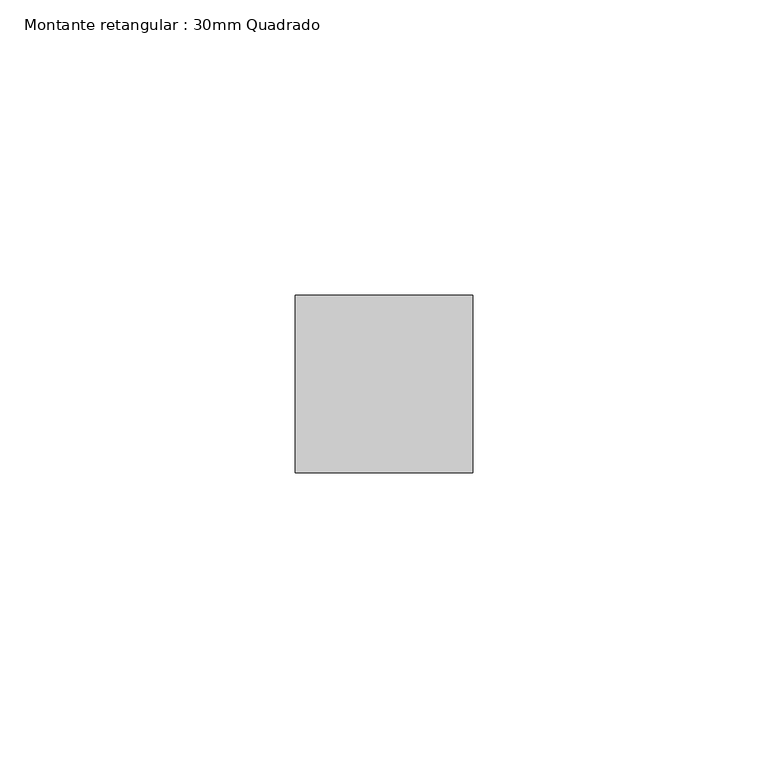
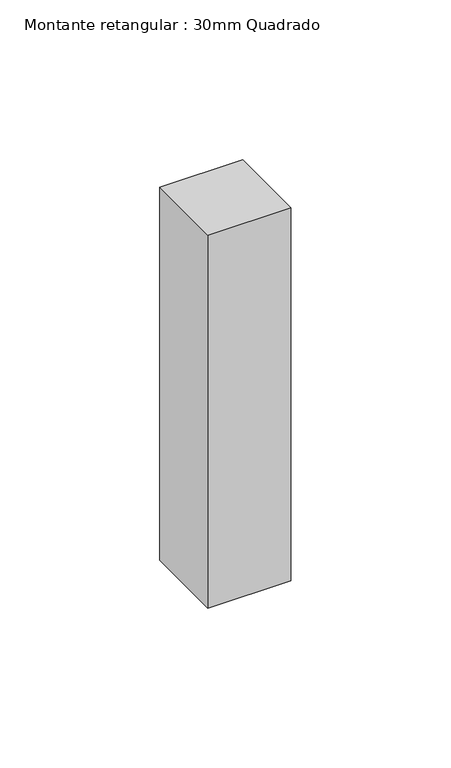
"""IFC4 building model written with IfcOpenShell, lengths in millimetres: member geometry, Montante retangular : 30mm Quadrado."""

import ifcopenshell
import ifcopenshell.guid

model = None  # the IFC model being written
_history = None  # IfcOwnerHistory: only IFC2X3 demands one
_inside = {}  # id of a spatial element -> (the spatial element, [elements in it])
_under = {}  # id of a project, library or spatial element -> (it, [spatial elements below it])
_declared = {}  # id of a project -> (the project, [libraries it declares])
_typed = {}  # id of a type object -> (the type object, [elements of that type])
_made_of = {}  # id of a material, layer set ... -> (it, [elements and type objects made of it])


def new_model(schema):
    """Start an empty IFC model of exactly this schema.

    Asked for "IFC4X3", IfcOpenShell would pick the latest addendum, in which some entities
    have other attributes; the version numbers below select the first issue.
    IFC2X3 requires an IfcOwnerHistory on every rooted entity: one is made here for all.
    """
    global model, _history
    if schema == "IFC4X3":
        model = ifcopenshell.file(schema_version=(4, 3, 0, 0))
    else:
        model = ifcopenshell.file(schema=schema)
    _inside.clear()
    _under.clear()
    _declared.clear()
    _typed.clear()
    _made_of.clear()
    _history = None
    if model.schema == "IFC2X3":
        org = make("IfcOrganization", Name="unknown")
        user = make(
            "IfcPersonAndOrganization",
            ThePerson=make("IfcPerson", FamilyName="unknown"),
            TheOrganization=org,
        )
        app = make(
            "IfcApplication",
            ApplicationDeveloper=org,
            Version="unknown",
            ApplicationFullName="unknown",
            ApplicationIdentifier="unknown",
        )
        _history = make(
            "IfcOwnerHistory",
            OwningUser=user,
            OwningApplication=app,
            ChangeAction="ADDED",
            CreationDate=0,
        )
    return model


def make(cls, **values):
    """One entity of the class cls with the attributes given. An attribute that is None is left unset."""
    return model.create_entity(
        cls, **{name: value for name, value in values.items() if value is not None}
    )


def rooted(cls, **values):
    """An entity with a GlobalId (a new one), such as an element, a storey or a relation."""
    return make(cls, GlobalId=ifcopenshell.guid.new(), OwnerHistory=_history, **values)


def si_unit(unit_type, name, prefix=None):
    """IfcSIUnit, for example si_unit("LENGTHUNIT", "METRE", prefix="MILLI")."""
    return make("IfcSIUnit", UnitType=unit_type, Prefix=prefix, Name=name)


def assignment(units):
    """IfcUnitAssignment: the units of a project."""
    return None if units is None else make("IfcUnitAssignment", Units=units)


def point(xyz):
    """IfcCartesianPoint."""
    return None if xyz is None else make("IfcCartesianPoint", Coordinates=xyz)


def direction(xyz):
    """IfcDirection."""
    return None if xyz is None else make("IfcDirection", DirectionRatios=xyz)


def frame(location, z_axis=None, x_axis=None):
    """IfcAxis2Placement3D, a coordinate frame: its origin and axes. An axis left out is left unset."""
    return make(
        "IfcAxis2Placement3D",
        Location=point(location),
        Axis=direction(z_axis),
        RefDirection=direction(x_axis),
    )


def origin():
    """The frame at (0, 0, 0) with its axes left unset."""
    return frame((0.0, 0.0, 0.0))


def place(relative_to, where):
    """IfcLocalPlacement: puts the frame where relative to a parent placement (None: the world)."""
    return make(
        "IfcLocalPlacement", PlacementRelTo=relative_to, RelativePlacement=where
    )


def context(
    kind, dimensions, precision=None, world=None, true_north=None, identifier=None
):
    """IfcGeometricRepresentationContext, for example the 3D "Model" context."""
    return make(
        "IfcGeometricRepresentationContext",
        ContextIdentifier=identifier,
        ContextType=kind,
        CoordinateSpaceDimension=dimensions,
        Precision=precision,
        WorldCoordinateSystem=world,
        TrueNorth=true_north,
    )


def project(units=None, contexts=None):
    """IfcProject with its units and contexts."""
    return rooted(
        "IfcProject",
        Name="project",
        RepresentationContexts=contexts,
        UnitsInContext=assignment(units),
    )


def spatial(cls, under=None, at=None, **own):
    """A site, building, storey or space (cls), placed at a placement, below another one or the project."""
    s = rooted(cls, ObjectPlacement=at, **own)
    if under is not None:
        _under.setdefault(under.id(), (under, []))[1].append(s)
    return s


def polyline(points):
    """IfcPolyline through the points."""
    return make("IfcPolyline", Points=[point(p) for p in points])


def outline(outer, holes=None, kind="AREA"):
    """IfcArbitraryClosedProfileDef: a profile drawn as a closed curve; with holes, ...WithVoids."""
    if holes is None:
        return make("IfcArbitraryClosedProfileDef", ProfileType=kind, OuterCurve=outer)
    return make(
        "IfcArbitraryProfileDefWithVoids",
        ProfileType=kind,
        OuterCurve=outer,
        InnerCurves=holes,
    )


def extrude(swept, where, along, depth):
    """IfcExtrudedAreaSolid: the profile swept, set in the frame where, extruded along a direction by depth."""
    return make(
        "IfcExtrudedAreaSolid",
        SweptArea=swept,
        Position=where,
        ExtrudedDirection=direction(along),
        Depth=depth,
    )


def shape(context_of_items, identifier, shape_type, items):
    """IfcShapeRepresentation: the items that make up one representation, for example the "Body"."""
    return make(
        "IfcShapeRepresentation",
        ContextOfItems=context_of_items,
        RepresentationIdentifier=identifier,
        RepresentationType=shape_type,
        Items=items,
    )


def source(mapping_origin, context_of_items, identifier, shape_type, items):
    """IfcRepresentationMap: a shape defined once, which mapped items show again and again."""
    return make(
        "IfcRepresentationMap",
        MappingOrigin=mapping_origin,
        MappedRepresentation=shape(context_of_items, identifier, shape_type, items),
    )


def transform(
    local_origin,
    x_axis=None,
    y_axis=None,
    z_axis=None,
    scale=None,
    scale2=None,
    scale3=None,
    uniform=True,
):
    """IfcCartesianTransformationOperator3D, or its non-uniform kind. x_axis, y_axis, z_axis: its Axis1, 2, 3."""
    if uniform:
        return make(
            "IfcCartesianTransformationOperator3D",
            Axis1=direction(x_axis),
            Axis2=direction(y_axis),
            LocalOrigin=point(local_origin),
            Scale=scale,
            Axis3=direction(z_axis),
        )
    return make(
        "IfcCartesianTransformationOperator3DnonUniform",
        Axis1=direction(x_axis),
        Axis2=direction(y_axis),
        LocalOrigin=point(local_origin),
        Scale=scale,
        Axis3=direction(z_axis),
        Scale2=scale2,
        Scale3=scale3,
    )


def mapped(mapping_source, mapping_target):
    """IfcMappedItem: shows the shape of a source again, moved by a transform."""
    return make(
        "IfcMappedItem", MappingSource=mapping_source, MappingTarget=mapping_target
    )


def made_of(thing, what):
    """Note that an element or type object is made of a material, layer set ...; save() writes the relation."""
    if what is not None:
        _made_of.setdefault(what.id(), (what, []))[1].append(thing)
    return thing


def element(
    cls,
    number,
    at=None,
    inside=None,
    cuts=None,
    type_object=None,
    material=None,
    context=None,
    identifier="Body",
    shape_type=None,
    held_by="IfcProductDefinitionShape",
    body=None,
    shapes=None,
    **own,
):
    """One element of the class cls, such as IfcWall. Its Tag is "e" and its number.

    at: its placement. inside: the storey or other place that contains it. cuts: it is an
    opening in that element (IfcRelVoidsElement). A single representation is given by context,
    identifier, shape_type and body (its items); several are given by shapes. held_by: the class
    of the entity that holds the representations. save() writes the other relations.
    """
    e = rooted(cls, Tag="e%d" % number, ObjectPlacement=at, **own)
    if body is not None:
        shapes = [shape(context, identifier, shape_type, body)]
    if shapes is not None:
        e.Representation = make(held_by, Representations=shapes)
    if inside is not None:
        _inside.setdefault(inside.id(), (inside, []))[1].append(e)
    if cuts is not None:
        rooted(
            "IfcRelVoidsElement", RelatingBuildingElement=cuts, RelatedOpeningElement=e
        )
    if type_object is not None:
        _typed.setdefault(type_object.id(), (type_object, []))[1].append(e)
    return made_of(e, material)


def aggregate(whole, parts):
    """IfcRelAggregates: a whole, such as a stair, and the parts it consists of."""
    return rooted("IfcRelAggregates", RelatingObject=whole, RelatedObjects=parts)


def save(model, path):
    """Write the relations noted so far, then the file.

    IfcRelAggregates (storeys below a building ...), IfcRelContainedInSpatialStructure (elements
    in a storey), IfcRelDefinesByType, IfcRelAssociatesMaterial and IfcRelDeclares: one each for
    every whole, place, type object, material and project.
    """
    for whole, parts in _under.values():
        aggregate(whole, parts)
    for where, things in _inside.values():
        rooted(
            "IfcRelContainedInSpatialStructure",
            RelatedElements=things,
            RelatingStructure=where,
        )
    for kind, things in _typed.values():
        rooted("IfcRelDefinesByType", RelatedObjects=things, RelatingType=kind)
    for what, things in _made_of.values():
        rooted("IfcRelAssociatesMaterial", RelatedObjects=things, RelatingMaterial=what)
    for by, libraries in _declared.values():
        rooted("IfcRelDeclares", RelatingContext=by, RelatedDefinitions=libraries)
    model.write(path)


def montante_retangular_30mm_quadrado_16fee919(model_context):
    return source(origin(), model_context, "Body", "SweptSolid", [
        extrude(outline(polyline([(0.0, 15.0), (0.0, -15.0), (-30.0, -15.0), (-30.0, 15.0), (0.0, 15.0)])), frame((0.0, 0.0, -142.4309141), z_axis=(0.0, 0.0, 1.0), x_axis=(1.0, 0.0, 0.0)), (0.0, 0.0, 1.0), 142.4309141),
    ])


if __name__ == "__main__":
    model = new_model("IFC4")
    model_context = context("Model", 3, world=origin())
    ifc_project = project(units=[si_unit("LENGTHUNIT", "METRE", prefix="MILLI")], contexts=[model_context])
    site = spatial("IfcSite", under=ifc_project)
    building = spatial("IfcBuilding", under=site)
    placement = place(None, origin())
    montante_retangular_30mm_quadrado_shape = montante_retangular_30mm_quadrado_16fee919(model_context)
    element("IfcMember", 1, ObjectType="Montante retangular : 30mm Quadrado", at=placement, inside=building, context=model_context, shape_type="MappedRepresentation", body=[
        mapped(montante_retangular_30mm_quadrado_shape, transform((0.0, 0.0, 0.0), x_axis=(1.0, 0.0, 0.0), y_axis=(0.0, 1.0, 0.0), z_axis=(0.0, 0.0, 1.0))),
    ])
    save(model, "model.ifc")
